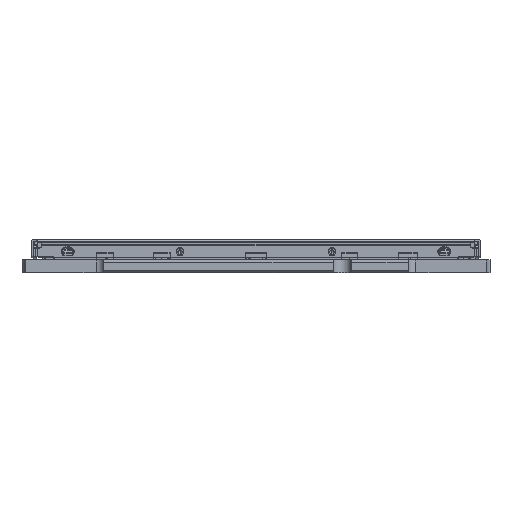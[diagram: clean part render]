
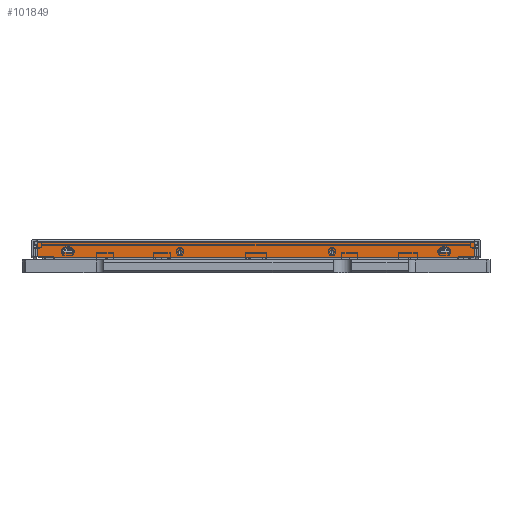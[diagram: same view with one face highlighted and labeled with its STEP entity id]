
A CAD part, left-side view. The second image highlights one B-rep face of the part: STEP entity #101849.
In plain terms, the highlighted planar face has unit normal (-1, 0, 0).
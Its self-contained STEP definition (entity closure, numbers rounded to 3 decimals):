
#92458=CARTESIAN_POINT('',(4.35,-0.83,4.95));
#92459=DIRECTION('',(-1.,0.,0.));
#92460=DIRECTION('',(0.,1.,0.));
#92461=AXIS2_PLACEMENT_3D('',#92458,#92459,#92460);
#92466=CARTESIAN_POINT('',(4.35,-0.83,4.95));
#92467=DIRECTION('',(-1.,0.,0.));
#92468=DIRECTION('',(0.,-1.,0.));
#92469=AXIS2_PLACEMENT_3D('',#92466,#92467,#92468);
#92474=CARTESIAN_POINT('',(4.35,-0.83,-4.95));
#92475=DIRECTION('',(-1.,0.,0.));
#92476=DIRECTION('',(0.,1.,0.));
#92477=AXIS2_PLACEMENT_3D('',#92474,#92475,#92476);
#92482=CARTESIAN_POINT('',(4.35,-0.83,-4.95));
#92483=DIRECTION('',(-1.,0.,0.));
#92484=DIRECTION('',(0.,-1.,0.));
#92485=AXIS2_PLACEMENT_3D('',#92482,#92483,#92484);
#92490=DIRECTION('',(0.,0.,1.));
#92491=VECTOR('',#92490,0.78);
#92492=CARTESIAN_POINT('',(4.35,-0.85,11.885));
#92493=LINE('',#92492,#92491);
#92497=CARTESIAN_POINT('',(4.35,-0.498,12.395));
#92498=CARTESIAN_POINT('',(4.35,-0.498,12.421));
#92499=CARTESIAN_POINT('',(4.35,-0.507,12.472));
#92500=CARTESIAN_POINT('',(4.35,-0.552,12.547));
#92501=CARTESIAN_POINT('',(4.35,-0.627,12.61));
#92502=CARTESIAN_POINT('',(4.35,-0.727,12.653));
#92503=CARTESIAN_POINT('',(4.35,-0.807,12.665));
#92504=CARTESIAN_POINT('',(4.35,-0.85,12.665));
#92509=DIRECTION('',(0.,0.,1.));
#92510=VECTOR('',#92509,0.24);
#92511=CARTESIAN_POINT('',(4.35,-0.498,12.155));
#92512=LINE('',#92511,#92510);
#92516=CARTESIAN_POINT('',(4.35,-0.85,11.885));
#92517=CARTESIAN_POINT('',(4.35,-0.807,11.885));
#92518=CARTESIAN_POINT('',(4.35,-0.727,11.897));
#92519=CARTESIAN_POINT('',(4.35,-0.627,11.94));
#92520=CARTESIAN_POINT('',(4.35,-0.552,12.003));
#92521=CARTESIAN_POINT('',(4.35,-0.507,12.078));
#92522=CARTESIAN_POINT('',(4.35,-0.498,12.129));
#92523=CARTESIAN_POINT('',(4.35,-0.498,12.155));
#92528=DIRECTION('',(0.,0.,1.));
#92529=VECTOR('',#92528,0.78);
#92530=CARTESIAN_POINT('',(4.35,-0.85,-12.665));
#92531=LINE('',#92530,#92529);
#92535=CARTESIAN_POINT('',(4.35,-0.498,-12.155));
#92536=CARTESIAN_POINT('',(4.35,-0.498,-12.129));
#92537=CARTESIAN_POINT('',(4.35,-0.507,-12.078));
#92538=CARTESIAN_POINT('',(4.35,-0.552,-12.003));
#92539=CARTESIAN_POINT('',(4.35,-0.627,-11.94));
#92540=CARTESIAN_POINT('',(4.35,-0.727,-11.897));
#92541=CARTESIAN_POINT('',(4.35,-0.807,-11.885));
#92542=CARTESIAN_POINT('',(4.35,-0.85,-11.885));
#92547=DIRECTION('',(0.,0.,1.));
#92548=VECTOR('',#92547,0.24);
#92549=CARTESIAN_POINT('',(4.35,-0.498,-12.395));
#92550=LINE('',#92549,#92548);
#92554=CARTESIAN_POINT('',(4.35,-0.85,-12.665));
#92555=CARTESIAN_POINT('',(4.35,-0.807,-12.665));
#92556=CARTESIAN_POINT('',(4.35,-0.727,-12.653));
#92557=CARTESIAN_POINT('',(4.35,-0.627,-12.61));
#92558=CARTESIAN_POINT('',(4.35,-0.552,-12.547));
#92559=CARTESIAN_POINT('',(4.35,-0.507,-12.472));
#92560=CARTESIAN_POINT('',(4.35,-0.498,-12.421));
#92561=CARTESIAN_POINT('',(4.35,-0.498,-12.395));
#92566=CARTESIAN_POINT('',(4.35,-0.99,-14.07));
#92567=DIRECTION('',(-1.,0.,0.));
#92568=DIRECTION('',(0.,0.,-1.));
#92569=AXIS2_PLACEMENT_3D('',#92566,#92567,#92568);
#92574=DIRECTION('',(0.,-1.,0.));
#92575=VECTOR('',#92574,0.81);
#92576=CARTESIAN_POINT('',(4.35,-0.18,-14.27));
#92577=LINE('',#92576,#92575);
#92581=DIRECTION('',(0.,1.,0.));
#92582=VECTOR('',#92581,0.81);
#92583=CARTESIAN_POINT('',(4.35,-0.99,14.27));
#92584=LINE('',#92583,#92582);
#92588=CARTESIAN_POINT('',(4.35,-0.99,14.07));
#92589=DIRECTION('',(-1.,0.,0.));
#92590=DIRECTION('',(0.,-1.,0.));
#92591=AXIS2_PLACEMENT_3D('',#92588,#92589,#92590);
#92596=DIRECTION('',(0.,0.,1.));
#92597=VECTOR('',#92596,28.14);
#92598=CARTESIAN_POINT('',(4.35,-1.19,-14.07));
#92599=LINE('',#92598,#92597);
#93050=DIRECTION('',(0.,0.,-1.));
#93051=VECTOR('',#93050,28.54);
#93052=CARTESIAN_POINT('',(4.35,-0.18,14.27));
#93053=LINE('',#93052,#93051);
#95972=CARTESIAN_POINT('',(4.35,-0.18,14.27));
#95974=VERTEX_POINT('',#95972);
#95976=CARTESIAN_POINT('',(4.35,-0.18,-14.27));
#95977=VERTEX_POINT('',#95976);
#96160=CARTESIAN_POINT('',(4.35,-0.69,4.95));
#96161=CARTESIAN_POINT('',(4.35,-0.97,4.95));
#96162=VERTEX_POINT('',#96160);
#96163=VERTEX_POINT('',#96161);
#96172=CARTESIAN_POINT('',(4.35,-0.69,-4.95));
#96173=CARTESIAN_POINT('',(4.35,-0.97,-4.95));
#96174=VERTEX_POINT('',#96172);
#96175=VERTEX_POINT('',#96173);
#96290=CARTESIAN_POINT('',(4.35,-0.85,11.885));
#96291=CARTESIAN_POINT('',(4.35,-0.85,12.665));
#96292=VERTEX_POINT('',#96290);
#96293=VERTEX_POINT('',#96291);
#96294=VERTEX_POINT('',#92523);
#96295=CARTESIAN_POINT('',(4.35,-0.498,12.395));
#96296=VERTEX_POINT('',#96295);
#96312=CARTESIAN_POINT('',(4.35,-0.85,-12.665));
#96313=CARTESIAN_POINT('',(4.35,-0.85,-11.885));
#96314=VERTEX_POINT('',#96312);
#96315=VERTEX_POINT('',#96313);
#96316=VERTEX_POINT('',#92561);
#96317=CARTESIAN_POINT('',(4.35,-0.498,-12.155));
#96318=VERTEX_POINT('',#96317);
#97166=CARTESIAN_POINT('',(4.35,-0.99,-14.27));
#97167=CARTESIAN_POINT('',(4.35,-1.19,-14.07));
#97168=VERTEX_POINT('',#97166);
#97169=VERTEX_POINT('',#97167);
#97174=CARTESIAN_POINT('',(4.35,-1.19,14.07));
#97175=CARTESIAN_POINT('',(4.35,-0.99,14.27));
#97176=VERTEX_POINT('',#97174);
#97177=VERTEX_POINT('',#97175);
#101800=CARTESIAN_POINT('',(4.35,0.,-14.27));
#101801=DIRECTION('',(-1.,0.,0.));
#101802=DIRECTION('',(0.,0.,-1.));
#101803=AXIS2_PLACEMENT_3D('',#101800,#101801,#101802);
#101804=PLANE('',#101803);
#101806=ORIENTED_EDGE('',*,*,#101805,.F.);
#101808=ORIENTED_EDGE('',*,*,#101807,.F.);
#101810=ORIENTED_EDGE('',*,*,#101809,.F.);
#101811=ORIENTED_EDGE('',*,*,#101777,.F.);
#101812=ORIENTED_EDGE('',*,*,#101790,.F.);
#101814=ORIENTED_EDGE('',*,*,#101813,.F.);
#101815=EDGE_LOOP('',(#101806,#101808,#101810,#101811,#101812,#101814));
#101816=FACE_OUTER_BOUND('',#101815,.F.);
#101818=ORIENTED_EDGE('',*,*,#101817,.T.);
#101820=ORIENTED_EDGE('',*,*,#101819,.T.);
#101821=EDGE_LOOP('',(#101818,#101820));
#101822=FACE_BOUND('',#101821,.F.);
#101824=ORIENTED_EDGE('',*,*,#101823,.T.);
#101826=ORIENTED_EDGE('',*,*,#101825,.F.);
#101828=ORIENTED_EDGE('',*,*,#101827,.F.);
#101830=ORIENTED_EDGE('',*,*,#101829,.F.);
#101831=EDGE_LOOP('',(#101824,#101826,#101828,#101830));
#101832=FACE_BOUND('',#101831,.F.);
#101834=ORIENTED_EDGE('',*,*,#101833,.T.);
#101836=ORIENTED_EDGE('',*,*,#101835,.F.);
#101838=ORIENTED_EDGE('',*,*,#101837,.F.);
#101840=ORIENTED_EDGE('',*,*,#101839,.F.);
#101841=EDGE_LOOP('',(#101834,#101836,#101838,#101840));
#101842=FACE_BOUND('',#101841,.F.);
#101844=ORIENTED_EDGE('',*,*,#101843,.T.);
#101846=ORIENTED_EDGE('',*,*,#101845,.T.);
#101847=EDGE_LOOP('',(#101844,#101846));
#101848=FACE_BOUND('',#101847,.F.);
#101849=ADVANCED_FACE('',(#101816,#101822,#101832,#101842,#101848),#101804,.T.);
#92462=CIRCLE('',#92461,0.14);
#92470=CIRCLE('',#92469,0.14);
#92478=CIRCLE('',#92477,0.14);
#92486=CIRCLE('',#92485,0.14);
#92505=B_SPLINE_CURVE_WITH_KNOTS('',3,(#92497,#92498,#92499,#92500,#92501,
#92502,#92503,#92504),.UNSPECIFIED.,.F.,.F.,(4,1,1,1,1,4),(0.,0.2,0.4,
0.6,0.8,1.),.UNSPECIFIED.);
#92524=B_SPLINE_CURVE_WITH_KNOTS('',3,(#92516,#92517,#92518,#92519,#92520,
#92521,#92522,#92523),.UNSPECIFIED.,.F.,.F.,(4,1,1,1,1,4),(0.,0.2,0.4,
0.6,0.8,1.),.UNSPECIFIED.);
#92543=B_SPLINE_CURVE_WITH_KNOTS('',3,(#92535,#92536,#92537,#92538,#92539,
#92540,#92541,#92542),.UNSPECIFIED.,.F.,.F.,(4,1,1,1,1,4),(0.,0.2,0.4,
0.6,0.8,1.),.UNSPECIFIED.);
#92562=B_SPLINE_CURVE_WITH_KNOTS('',3,(#92554,#92555,#92556,#92557,#92558,
#92559,#92560,#92561),.UNSPECIFIED.,.F.,.F.,(4,1,1,1,1,4),(0.,0.2,0.4,
0.6,0.8,1.),.UNSPECIFIED.);
#92570=CIRCLE('',#92569,0.2);
#92592=CIRCLE('',#92591,0.2);
#101777=EDGE_CURVE('',#97177,#95974,#92584,.T.);
#101790=EDGE_CURVE('',#97176,#97177,#92592,.T.);
#101805=EDGE_CURVE('',#97168,#97169,#92570,.T.);
#101807=EDGE_CURVE('',#95977,#97168,#92577,.T.);
#101809=EDGE_CURVE('',#95974,#95977,#93053,.T.);
#101813=EDGE_CURVE('',#97169,#97176,#92599,.T.);
#101817=EDGE_CURVE('',#96174,#96175,#92478,.T.);
#101819=EDGE_CURVE('',#96175,#96174,#92486,.T.);
#101823=EDGE_CURVE('',#96292,#96293,#92493,.T.);
#101825=EDGE_CURVE('',#96296,#96293,#92505,.T.);
#101827=EDGE_CURVE('',#96294,#96296,#92512,.T.);
#101829=EDGE_CURVE('',#96292,#96294,#92524,.T.);
#101833=EDGE_CURVE('',#96314,#96315,#92531,.T.);
#101835=EDGE_CURVE('',#96318,#96315,#92543,.T.);
#101837=EDGE_CURVE('',#96316,#96318,#92550,.T.);
#101839=EDGE_CURVE('',#96314,#96316,#92562,.T.);
#101843=EDGE_CURVE('',#96162,#96163,#92462,.T.);
#101845=EDGE_CURVE('',#96163,#96162,#92470,.T.);
